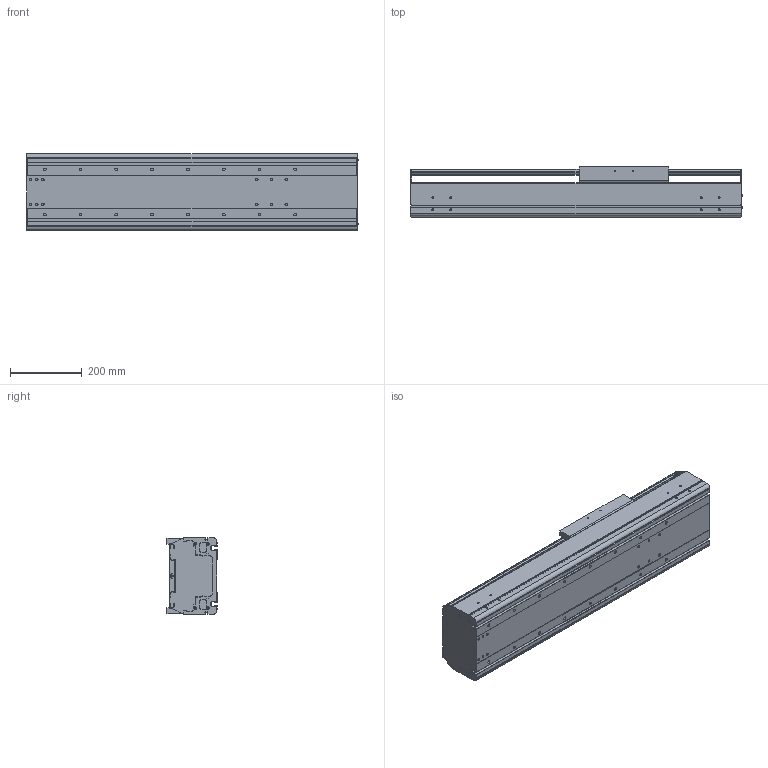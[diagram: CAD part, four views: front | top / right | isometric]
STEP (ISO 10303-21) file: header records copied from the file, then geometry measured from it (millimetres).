
FILE_DESCRIPTION((''),'2;1');
FILE_NAME('BE60J-ST-M_B-40_IGS_PRT','2017-06-18T',(' '),(''),'PRO/ENGINEER BY PARAMETRIC TECHNOLOGY CORPORATION, 2015030','PRO/ENGINEER BY PARAMETRIC TECHNOLOGY CORPORATION, 2015030','');
FILE_SCHEMA(('CONFIG_CONTROL_DESIGN'));
Length unit declared in the file: millimetre
Products named in the file (1): BE60J-ST-M_B-40_IGS_PRT
Bounding box: 927.4 x 140 x 214 mm (x, y, z)
Volume: 7656223.6 mm3; surface area: 2043683.7 mm2
Topology: 2 solids, 28 shells, 1067 faces, 2850 edges, 1834 vertices
Faces by surface type: plane 513, cylinder 454, cone 52, sphere 24, torus 24
Entity records: 33603 total; most frequent: CARTESIAN_POINT 6308, DIRECTION 5824, ORIENTED_EDGE 5500, EDGE_CURVE 2798, AXIS2_PLACEMENT_3D 2068, VERTEX_POINT 1832, VECTOR 1688, LINE 1688
